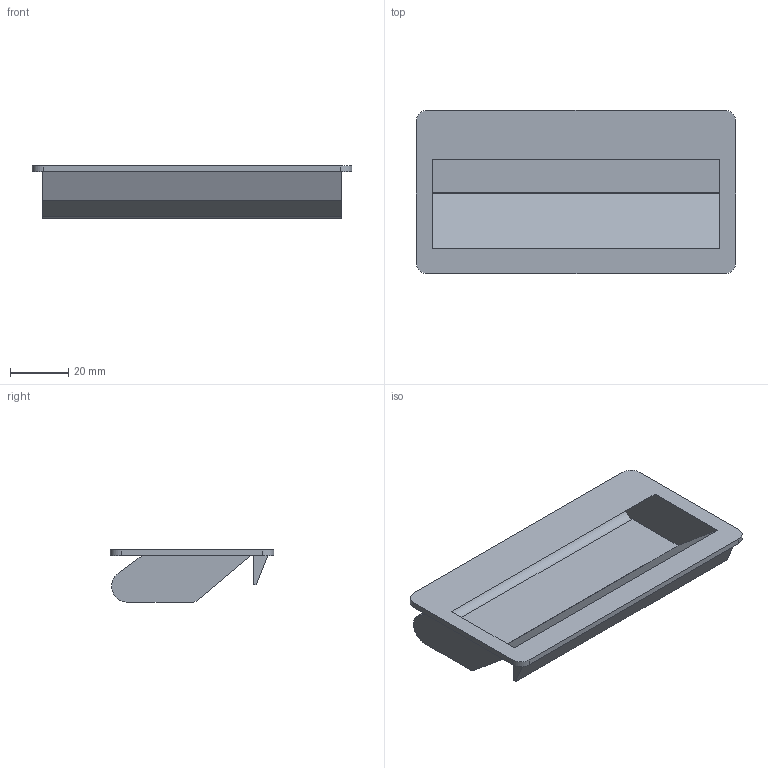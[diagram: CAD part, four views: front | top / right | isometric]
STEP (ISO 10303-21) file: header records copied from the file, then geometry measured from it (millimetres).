
FILE_DESCRIPTION(('STEP AP203'),'1');
FILE_NAME(' ',' ',('TraceParts'),('TraceParts S.A.'),'XStep 1.0',' ',' ');
FILE_SCHEMA(('CONFIG_CONTROL_DESIGN'));
Length unit declared in the file: millimetre
Products named in the file (1): 1
Bounding box: 110 x 56.3 x 18 mm (x, y, z)
Volume: 25289 mm3; surface area: 24641.1 mm2
Topology: 1 solids, 1 shells, 31 faces, 78 edges, 52 vertices
Faces by surface type: plane 21, cylinder 10
Entity records: 976 total; most frequent: CARTESIAN_POINT 162, DIRECTION 162, ORIENTED_EDGE 156, EDGE_CURVE 78, LINE 58, VECTOR 58, AXIS2_PLACEMENT_3D 52, VERTEX_POINT 52
